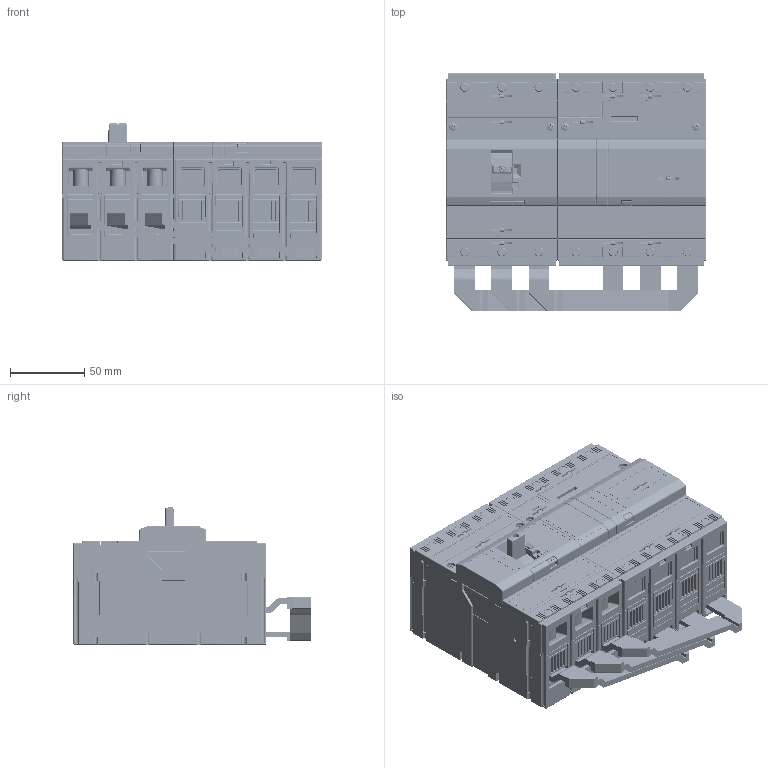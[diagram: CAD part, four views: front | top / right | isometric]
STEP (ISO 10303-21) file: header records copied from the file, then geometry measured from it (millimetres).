
FILE_DESCRIPTION (( 'STEP AP214' ), '1' );
FILE_NAME ('BC160NT305__RCD-BC3_fin.step', '2013-06-13T08:01:06', ( 'Siemens' ), ( 'Siemens' ), 'SwSTEP 2.0', 'SolidWorks 2011', '' );
FILE_SCHEMA (( 'AUTOMOTIVE_DESIGN' ));
Length unit declared in the file: millimetre
Products named in the file (1): BC160NT305__RCD-BC3_fin
Bounding box: 175 x 160 x 92.5 mm (x, y, z)
Volume: 1507206.1 mm3; surface area: 301732 mm2
Topology: 19 solids, 23 shells, 10227 faces, 27761 edges, 17623 vertices
Faces by surface type: plane 5550, cylinder 3223, torus 738, cone 428, bspline 167, sphere 121
Entity records: 460312 total; most frequent: CARTESIAN_POINT 96692, ORIENTED_EDGE 55308, DIRECTION 48236, EDGE_CURVE 27654, LINE 18302, VECTOR 18302, VERTEX_POINT 17617, AXIS2_PLACEMENT_3D 14967
